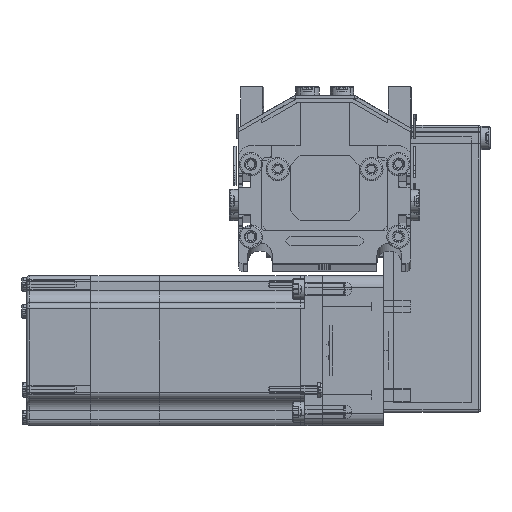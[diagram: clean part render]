
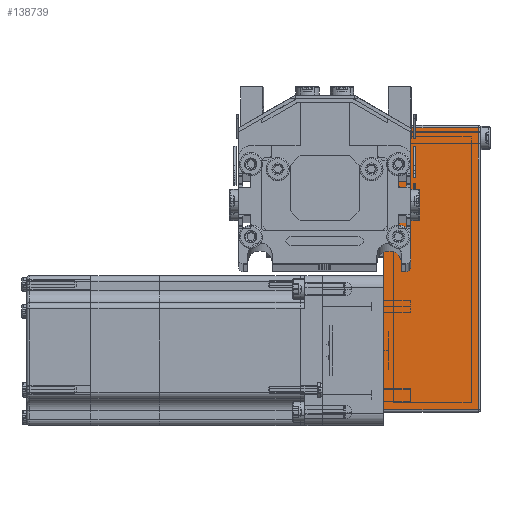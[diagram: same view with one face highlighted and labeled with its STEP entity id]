
A CAD part, top view. The second image highlights one B-rep face of the part: STEP entity #138739.
In plain terms, the highlighted planar face has unit normal (0, 0, 1) as drawn and (0, -1, 0) by its records, which use the part's own axes.
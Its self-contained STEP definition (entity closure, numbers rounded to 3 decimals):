
#103669 = CARTESIAN_POINT ( 'NONE',  ( 65.5, -25., 0. ) ) ;
#103916 = DIRECTION ( 'NONE',  ( -1., 0., 0. ) ) ;
#103941 = VECTOR ( 'NONE', #103916, 1000. ) ;
#103945 = CARTESIAN_POINT ( 'NONE',  ( -50., -25., 38.5 ) ) ;
#103971 = LINE ( 'NONE', #103945, #103941 ) ;
#104283 = VECTOR ( 'NONE', #104562, 1000. ) ;
#104287 = CARTESIAN_POINT ( 'NONE',  ( -50., -25., 0. ) ) ;
#104311 = LINE ( 'NONE', #104287, #104283 ) ;
#104328 = CARTESIAN_POINT ( 'NONE',  ( -49., -25., 0. ) ) ;
#104562 = DIRECTION ( 'NONE',  ( 1., 0., 0. ) ) ;
#104767 = LINE ( 'NONE', #104994, #104992 ) ;
#104785 = CARTESIAN_POINT ( 'NONE',  ( 65.5, -25., 38.5 ) ) ;
#104787 = LINE ( 'NONE', #105012, #105007 ) ;
#104798 = FACE_OUTER_BOUND ( 'NONE', #138735, .T. ) ;
#104833 = PLANE ( 'NONE',  #105036 ) ;
#104894 = CARTESIAN_POINT ( 'NONE',  ( -49., -25., 38.5 ) ) ;
#104988 = DIRECTION ( 'NONE',  ( 0., 0., 1. ) ) ;
#104992 = VECTOR ( 'NONE', #104988, 1000. ) ;
#104994 = CARTESIAN_POINT ( 'NONE',  ( 65.5, -25., 39.5 ) ) ;
#105006 = DIRECTION ( 'NONE',  ( 0., 0., -1. ) ) ;
#105007 = VECTOR ( 'NONE', #105006, 1000. ) ;
#105012 = CARTESIAN_POINT ( 'NONE',  ( -49., -25., 39.5 ) ) ;
#105028 = DIRECTION ( 'NONE',  ( 0., 0., 1. ) ) ;
#105032 = DIRECTION ( 'NONE',  ( 0., 1., 0. ) ) ;
#105034 = CARTESIAN_POINT ( 'NONE',  ( -50., -25., 39.5 ) ) ;
#105036 = AXIS2_PLACEMENT_3D ( 'NONE', #105034, #105032, #105028 ) ;
#138538 = VERTEX_POINT ( 'NONE', #103669 ) ;
#138589 = EDGE_CURVE ( 'NONE', #138737, #138741, #103971, .T. ) ;
#138611 = ORIENTED_EDGE ( 'NONE', *, *, #138589, .T. ) ;
#138648 = VERTEX_POINT ( 'NONE', #104328 ) ;
#138656 = EDGE_CURVE ( 'NONE', #138648, #138538, #104311, .T. ) ;
#138704 = ORIENTED_EDGE ( 'NONE', *, *, #138656, .T. ) ;
#138712 = ORIENTED_EDGE ( 'NONE', *, *, #138745, .T. ) ;
#138735 = EDGE_LOOP ( 'NONE', ( #138611, #138742, #138704, #138712 ) ) ;
#138737 = VERTEX_POINT ( 'NONE', #104785 ) ;
#138739 = ADVANCED_FACE ( 'NONE', ( #104798 ), #104833, .F. ) ;
#138741 = VERTEX_POINT ( 'NONE', #104894 ) ;
#138742 = ORIENTED_EDGE ( 'NONE', *, *, #138743, .T. ) ;
#138743 = EDGE_CURVE ( 'NONE', #138741, #138648, #104787, .T. ) ;
#138745 = EDGE_CURVE ( 'NONE', #138538, #138737, #104767, .T. ) ;
